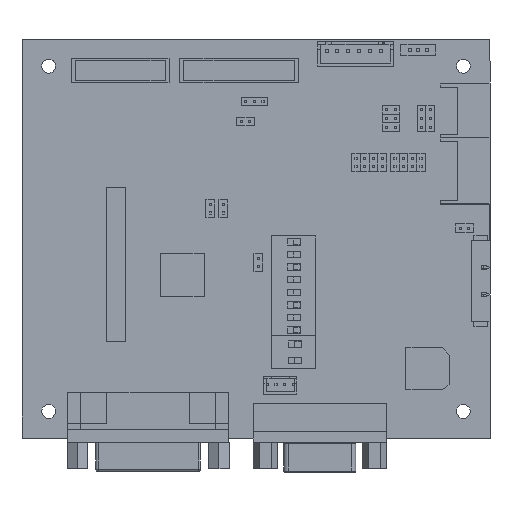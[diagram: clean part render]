
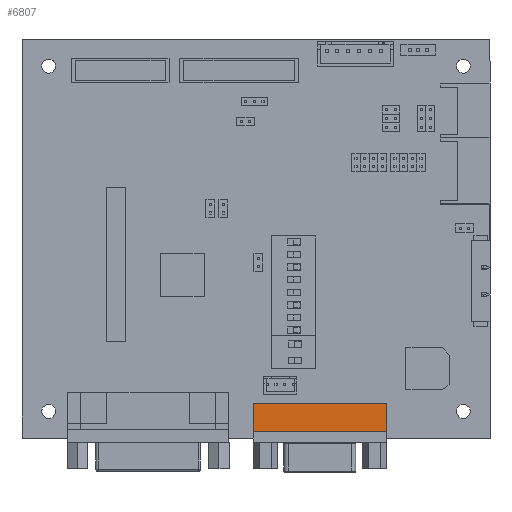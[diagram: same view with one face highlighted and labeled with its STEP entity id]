
A CAD part, top view. The second image highlights one B-rep face of the part: STEP entity #6807.
In plain terms, the highlighted planar face has unit normal (0, 0, 1) as drawn and (0, 1, 0) by its records, which use the part's own axes.
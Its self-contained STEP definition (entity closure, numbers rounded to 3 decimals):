
#1052 = EDGE_LOOP ( 'NONE', ( #6979, #14587, #23044, #9757 ) ) ;
#3451 = VERTEX_POINT ( 'NONE', #25144 ) ;
#3765 = LINE ( 'NONE', #15589, #4793 ) ;
#4394 = DIRECTION ( 'NONE',  ( 0., 0., 1. ) ) ;
#4793 = VECTOR ( 'NONE', #15948, 1000. ) ;
#5750 = CARTESIAN_POINT ( 'NONE',  ( 15.3, 2.05, 4.5 ) ) ;
#6050 = EDGE_CURVE ( 'NONE', #20846, #3451, #26390, .T. ) ;
#6651 = DIRECTION ( 'NONE',  ( 0., 1., 0. ) ) ;
#6807 = ADVANCED_FACE ( 'NONE', ( #19644 ), #25421, .T. ) ;
#6923 = AXIS2_PLACEMENT_3D ( 'NONE', #16879, #6651, #4394 ) ;
#6937 = CARTESIAN_POINT ( 'NONE',  ( 15.3, 2.05, -2. ) ) ;
#6979 = ORIENTED_EDGE ( 'NONE', *, *, #23233, .F. ) ;
#8877 = CARTESIAN_POINT ( 'NONE',  ( 15.3, 2.05, -2. ) ) ;
#8977 = CARTESIAN_POINT ( 'NONE',  ( 15.3, 2.05, 4.5 ) ) ;
#9681 = CARTESIAN_POINT ( 'NONE',  ( -15.3, 2.05, 4.5 ) ) ;
#9757 = ORIENTED_EDGE ( 'NONE', *, *, #20165, .T. ) ;
#10467 = EDGE_CURVE ( 'NONE', #26234, #20846, #3765, .T. ) ;
#12299 = LINE ( 'NONE', #8877, #26631 ) ;
#14098 = VECTOR ( 'NONE', #19467, 1000. ) ;
#14587 = ORIENTED_EDGE ( 'NONE', *, *, #10467, .T. ) ;
#15060 = VECTOR ( 'NONE', #18585, 1000. ) ;
#15589 = CARTESIAN_POINT ( 'NONE',  ( -15.3, 2.05, 4.5 ) ) ;
#15948 = DIRECTION ( 'NONE',  ( 0., 0., 1. ) ) ;
#16879 = CARTESIAN_POINT ( 'NONE',  ( 0., 2.05, 0. ) ) ;
#17424 = DIRECTION ( 'NONE',  ( 1., 0., 0. ) ) ;
#18054 = VERTEX_POINT ( 'NONE', #6937 ) ;
#18585 = DIRECTION ( 'NONE',  ( 1., 0., 0. ) ) ;
#19467 = DIRECTION ( 'NONE',  ( 0., 0., -1. ) ) ;
#19644 = FACE_OUTER_BOUND ( 'NONE', #1052, .T. ) ;
#20165 = EDGE_CURVE ( 'NONE', #3451, #18054, #22769, .T. ) ;
#20846 = VERTEX_POINT ( 'NONE', #9681 ) ;
#22769 = LINE ( 'NONE', #8977, #14098 ) ;
#23044 = ORIENTED_EDGE ( 'NONE', *, *, #6050, .T. ) ;
#23233 = EDGE_CURVE ( 'NONE', #26234, #18054, #12299, .T. ) ;
#25144 = CARTESIAN_POINT ( 'NONE',  ( 15.3, 2.05, 4.5 ) ) ;
#25421 = PLANE ( 'NONE',  #6923 ) ;
#25537 = CARTESIAN_POINT ( 'NONE',  ( -15.3, 2.05, -2. ) ) ;
#26234 = VERTEX_POINT ( 'NONE', #25537 ) ;
#26390 = LINE ( 'NONE', #5750, #15060 ) ;
#26631 = VECTOR ( 'NONE', #17424, 1000. ) ;
